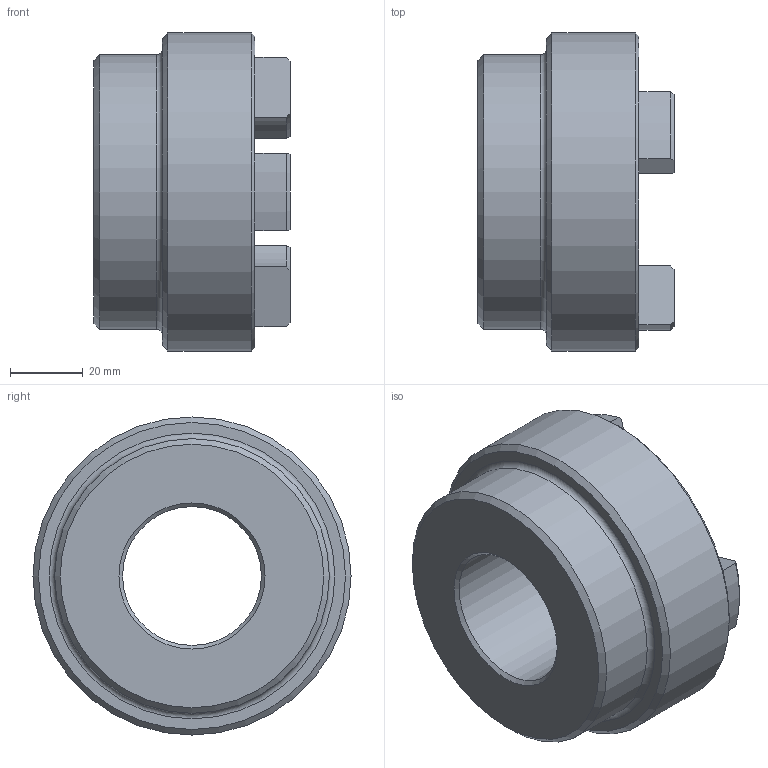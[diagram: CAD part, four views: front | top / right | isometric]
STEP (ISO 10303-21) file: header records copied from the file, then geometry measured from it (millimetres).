
FILE_DESCRIPTION (( 'STEP AP203' ), '1' );
FILE_NAME ('RC3.step', '2024-07-24T12:52:01', ( 'Adlan' ), ( '' ), 'SwSTEP 2.0', 'SolidWorks 2013', '' );
FILE_SCHEMA (( 'CONFIG_CONTROL_DESIGN' ));
Length unit declared in the file: inch
Products named in the file (1): RC3
Bounding box: 53.85 x 87.38 x 87.38 mm (x, y, z)
Volume: 158847.2 mm3; surface area: 29727.3 mm2
Topology: 1 solids, 1 shells, 60 faces, 146 edges, 90 vertices
Faces by surface type: cylinder 24, plane 13, torus 13, cone 10
Full cylindrical faces by diameter (mm): 38.113 x1, 75.438 x1, 87.376 x1
Entity records: 1841 total; most frequent: CARTESIAN_POINT 341, DIRECTION 324, ORIENTED_EDGE 274, EDGE_CURVE 137, AXIS2_PLACEMENT_3D 132, VERTEX_POINT 89, EDGE_LOOP 72, CIRCLE 71
